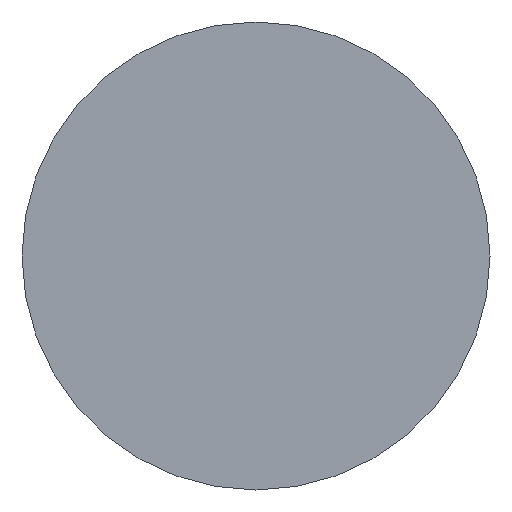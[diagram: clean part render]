
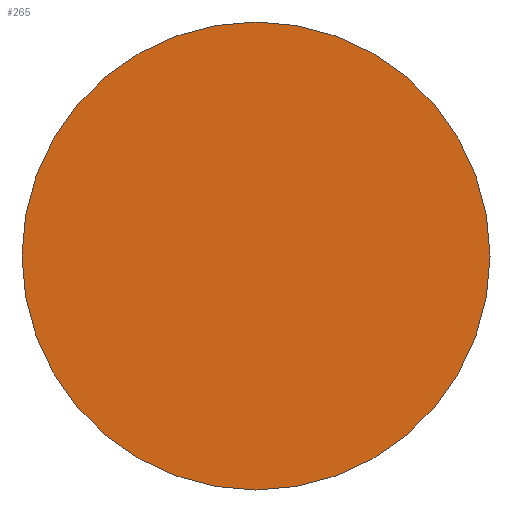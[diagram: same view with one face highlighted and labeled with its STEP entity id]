
A CAD part, front view. The second image highlights one B-rep face of the part: STEP entity #265.
In plain terms, the highlighted planar face has unit normal (0, -1, 0).
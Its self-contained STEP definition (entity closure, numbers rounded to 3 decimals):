
#7 = AXIS2_PLACEMENT_3D ( 'NONE', #636, #1704, #1225 ) ;
#235 = PLANE ( 'NONE',  #1122 ) ;
#245 = EDGE_LOOP ( 'NONE', ( #2166, #1528 ) ) ;
#265 = ADVANCED_FACE ( 'NONE', ( #1699 ), #235, .T. ) ;
#588 = DIRECTION ( 'NONE',  ( -1., 0., 0. ) ) ;
#636 = CARTESIAN_POINT ( 'NONE',  ( 0., -34.5, 16.5 ) ) ;
#655 = VERTEX_POINT ( 'NONE', #815 ) ;
#707 = AXIS2_PLACEMENT_3D ( 'NONE', #2113, #2157, #588 ) ;
#815 = CARTESIAN_POINT ( 'NONE',  ( 14.5, -34.5, 16.5 ) ) ;
#1122 = AXIS2_PLACEMENT_3D ( 'NONE', #1343, #1258, #1510 ) ;
#1221 = VERTEX_POINT ( 'NONE', #1419 ) ;
#1225 = DIRECTION ( 'NONE',  ( -1., 0., 0. ) ) ;
#1258 = DIRECTION ( 'NONE',  ( 0., -1., 0. ) ) ;
#1343 = CARTESIAN_POINT ( 'NONE',  ( 7.25, -34.5, 16.5 ) ) ;
#1403 = EDGE_CURVE ( 'NONE', #655, #1221, #2661, .T. ) ;
#1419 = CARTESIAN_POINT ( 'NONE',  ( -14.5, -34.5, 16.5 ) ) ;
#1510 = DIRECTION ( 'NONE',  ( -1., 0., 0. ) ) ;
#1528 = ORIENTED_EDGE ( 'NONE', *, *, #1403, .T. ) ;
#1589 = CIRCLE ( 'NONE', #707, 14.5 ) ;
#1699 = FACE_OUTER_BOUND ( 'NONE', #245, .T. ) ;
#1704 = DIRECTION ( 'NONE',  ( 0., -1., 0. ) ) ;
#2034 = EDGE_CURVE ( 'NONE', #1221, #655, #1589, .T. ) ;
#2113 = CARTESIAN_POINT ( 'NONE',  ( 0., -34.5, 16.5 ) ) ;
#2157 = DIRECTION ( 'NONE',  ( 0., -1., 0. ) ) ;
#2166 = ORIENTED_EDGE ( 'NONE', *, *, #2034, .T. ) ;
#2661 = CIRCLE ( 'NONE', #7, 14.5 ) ;
